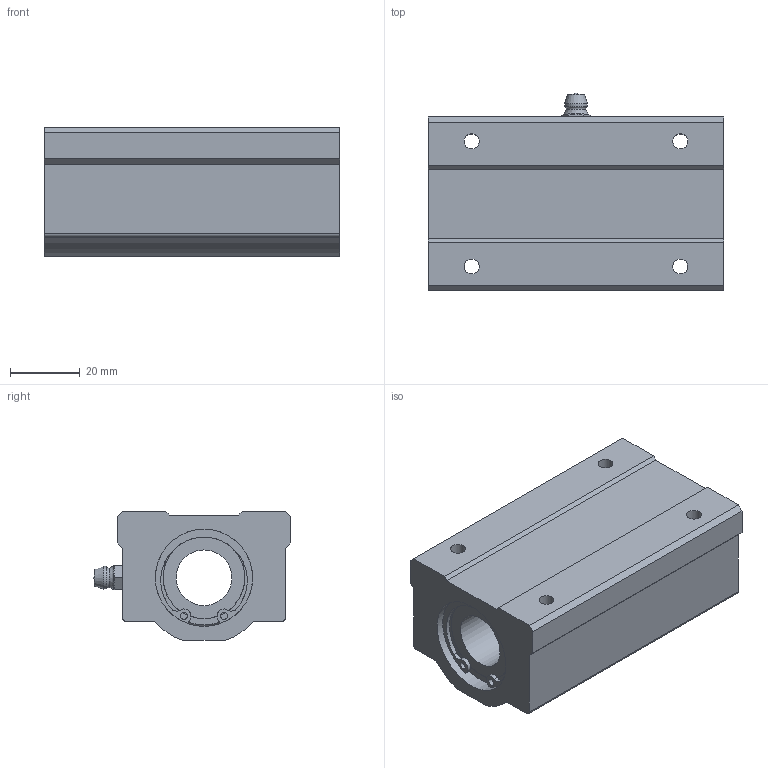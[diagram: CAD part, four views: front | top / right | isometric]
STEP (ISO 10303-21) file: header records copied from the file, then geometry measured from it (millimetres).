
FILE_DESCRIPTION((''),'2;1');
FILE_NAME('D:\製品 (図面)\カタログ用3D\リニアベアリング関連\STEP形式\LHW-B\LHW16B.stp','2010-05-21T10:49:12',('Tsuchiya'),(''),'Autodesk Inventor 10','Autodesk Inventor 10','');
FILE_SCHEMA(('AUTOMOTIVE_DESIGN { 1 0 10303 214 1 1 1 1 }'));
Length unit declared in the file: millimetre
Products named in the file (1): LHW16B
Bounding box: 85 x 56.9 x 37 mm (x, y, z)
Volume: 114810.9 mm3; surface area: 26307.5 mm2
Topology: 1 solids, 7 shells, 122 faces, 305 edges, 193 vertices
Faces by surface type: plane 46, bspline 40, cylinder 25, cone 7, torus 2, sphere 2
Full cylindrical faces by diameter (mm): 2 x2, 16 x2, 23.5 x2, 26.6 x2, 28 x8
Entity records: 3689 total; most frequent: CARTESIAN_POINT 1053, DIRECTION 538, ORIENTED_EDGE 488, EDGE_CURVE 244, AXIS2_PLACEMENT_3D 223, EDGE_LOOP 192, VERTEX_POINT 172, CIRCLE 140
